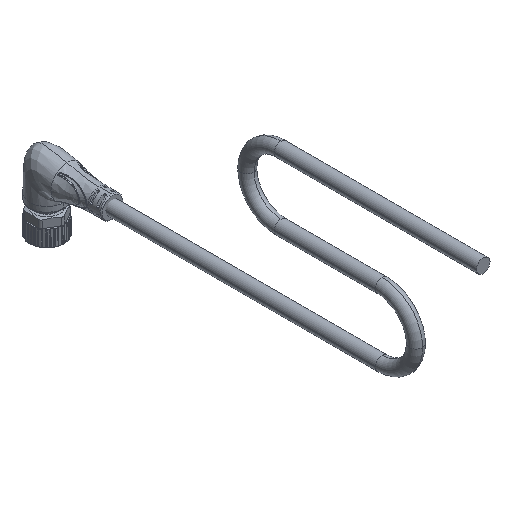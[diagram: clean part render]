
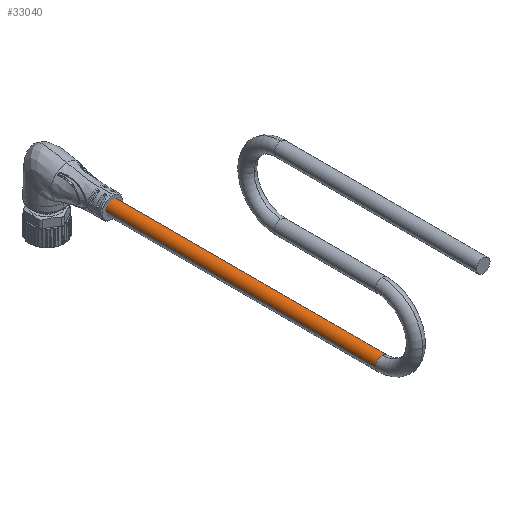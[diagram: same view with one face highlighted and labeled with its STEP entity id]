
A CAD part, isometric view. The second image highlights one B-rep face of the part: STEP entity #33040.
In plain terms, the highlighted cylindrical face has radius 2 mm (diameter 4 mm), a partial arc.
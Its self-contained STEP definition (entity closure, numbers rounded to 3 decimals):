
#419 = CIRCLE ( 'NONE', #25425, 2. ) ;
#421 = CARTESIAN_POINT ( 'NONE',  ( 2., 40., -90. ) ) ;
#2593 = CARTESIAN_POINT ( 'NONE',  ( 0., 38., 0. ) ) ;
#2722 = VERTEX_POINT ( 'NONE', #2593 ) ;
#2784 = DIRECTION ( 'NONE',  ( -1., 0., 0. ) ) ;
#3124 = LINE ( 'NONE', #11678, #11871 ) ;
#3344 = CIRCLE ( 'NONE', #30715, 2. ) ;
#3942 = EDGE_LOOP ( 'NONE', ( #22000, #22807, #23709, #27124, #34259 ) ) ;
#5511 = CIRCLE ( 'NONE', #26339, 2. ) ;
#5976 = VERTEX_POINT ( 'NONE', #25297 ) ;
#6463 = DIRECTION ( 'NONE',  ( 0., 0., -1. ) ) ;
#7847 = EDGE_CURVE ( 'NONE', #2722, #25315, #5511, .T. ) ;
#8347 = CARTESIAN_POINT ( 'NONE',  ( -2., 40., -90. ) ) ;
#11335 = DIRECTION ( 'NONE',  ( 0., 0., -1. ) ) ;
#11678 = CARTESIAN_POINT ( 'NONE',  ( -2., 40., 0. ) ) ;
#11871 = VECTOR ( 'NONE', #6463, 1000. ) ;
#14826 = EDGE_CURVE ( 'NONE', #25315, #26876, #3124, .T. ) ;
#15860 = EDGE_CURVE ( 'NONE', #5976, #34711, #36508, .T. ) ;
#15869 = DIRECTION ( 'NONE',  ( -1., 0., 0. ) ) ;
#16742 = CARTESIAN_POINT ( 'NONE',  ( 2., 40., 0. ) ) ;
#17288 = DIRECTION ( 'NONE',  ( -1., 0., 0. ) ) ;
#18110 = CARTESIAN_POINT ( 'NONE',  ( 0., 40., 0. ) ) ;
#21427 = VECTOR ( 'NONE', #22524, 1000. ) ;
#21643 = DIRECTION ( 'NONE',  ( 0., 0., -1. ) ) ;
#22000 = ORIENTED_EDGE ( 'NONE', *, *, #15860, .F. ) ;
#22524 = DIRECTION ( 'NONE',  ( 0., 0., -1. ) ) ;
#22659 = CARTESIAN_POINT ( 'NONE',  ( 0., 40., -90. ) ) ;
#22807 = ORIENTED_EDGE ( 'NONE', *, *, #35351, .T. ) ;
#23130 = AXIS2_PLACEMENT_3D ( 'NONE', #18110, #21643, #15869 ) ;
#23709 = ORIENTED_EDGE ( 'NONE', *, *, #7847, .T. ) ;
#25220 = CARTESIAN_POINT ( 'NONE',  ( -2., 40., 0. ) ) ;
#25297 = CARTESIAN_POINT ( 'NONE',  ( 2., 40., 0. ) ) ;
#25315 = VERTEX_POINT ( 'NONE', #25220 ) ;
#25425 = AXIS2_PLACEMENT_3D ( 'NONE', #25714, #29377, #17288 ) ;
#25714 = CARTESIAN_POINT ( 'NONE',  ( 0., 40., 0. ) ) ;
#26339 = AXIS2_PLACEMENT_3D ( 'NONE', #34071, #11335, #2784 ) ;
#26712 = CYLINDRICAL_SURFACE ( 'NONE', #23130, 2. ) ;
#26876 = VERTEX_POINT ( 'NONE', #8347 ) ;
#27124 = ORIENTED_EDGE ( 'NONE', *, *, #14826, .T. ) ;
#29222 = EDGE_CURVE ( 'NONE', #34711, #26876, #3344, .T. ) ;
#29377 = DIRECTION ( 'NONE',  ( 0., 0., -1. ) ) ;
#30041 = FACE_OUTER_BOUND ( 'NONE', #3942, .T. ) ;
#30715 = AXIS2_PLACEMENT_3D ( 'NONE', #22659, #36637, #31059 ) ;
#31059 = DIRECTION ( 'NONE',  ( -1., 0., 0. ) ) ;
#33040 = ADVANCED_FACE ( 'NONE', ( #30041 ), #26712, .T. ) ;
#34071 = CARTESIAN_POINT ( 'NONE',  ( 0., 40., 0. ) ) ;
#34259 = ORIENTED_EDGE ( 'NONE', *, *, #29222, .F. ) ;
#34711 = VERTEX_POINT ( 'NONE', #421 ) ;
#35351 = EDGE_CURVE ( 'NONE', #5976, #2722, #419, .T. ) ;
#36508 = LINE ( 'NONE', #16742, #21427 ) ;
#36637 = DIRECTION ( 'NONE',  ( 0., 0., -1. ) ) ;
